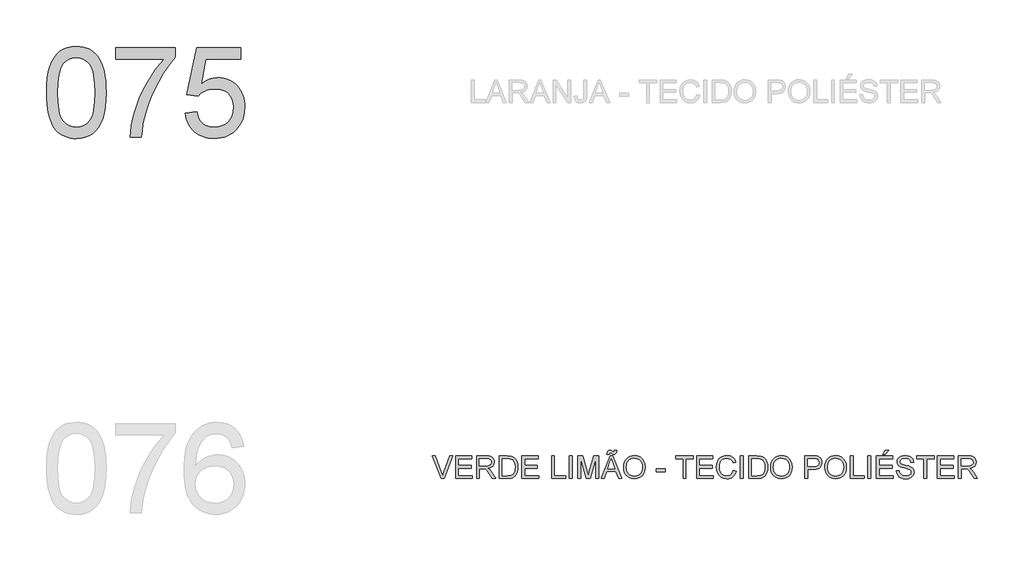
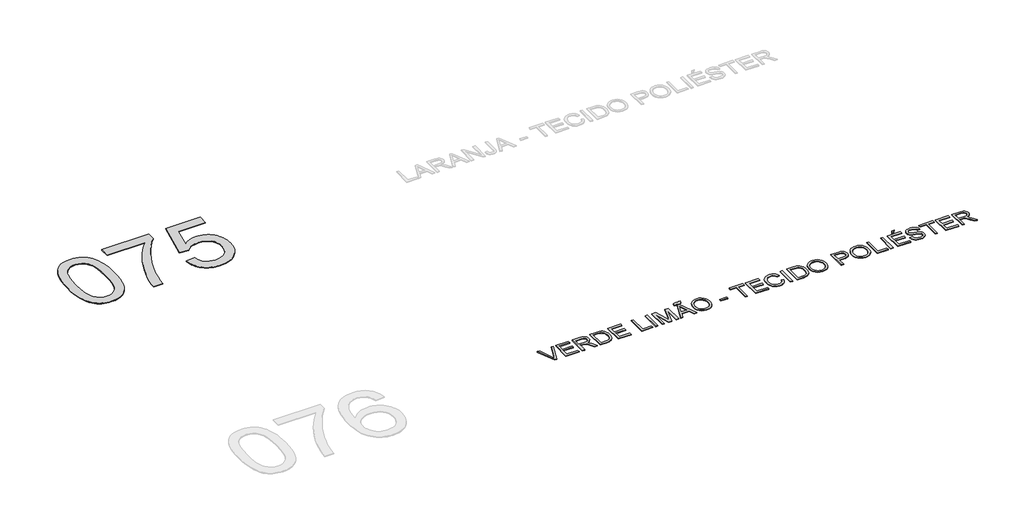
# One storey, part 7 of 35: 2 proxies.
"""IFC4 building model written with IfcOpenShell, lengths in millimetres."""

from ifc_helpers import new_model, si_unit, origin, origin_with_axes, place, context, project, spatial, polyline, outline, extrude, element, save

model = new_model("IFC4")

# Units and contexts
model_context = context("Model", 3, world=origin())
ifc_project = project(units=[si_unit("LENGTHUNIT", "METRE", prefix="MILLI")], contexts=[model_context])

# Site, building, storey
site = spatial("IfcSite", under=ifc_project)
building = spatial("IfcBuilding", under=site)
storey = spatial("IfcBuildingStorey", under=building, Name="Marelli - Linha YOU - Planta Baixa", Elevation=0.0)

# Proxies
placement = place(None, origin())
element("IfcBuildingElementProxy", 1, Name="1200mm Arial", ObjectType="1200mm Arial", at=placement, inside=storey, context=model_context, shape_type="SweptSolid", body=[
    extrude(outline(polyline([(-25181.1313792, -104895.792664), (-25178.3630672, -104794.4319773), (-25170.0581311, -104702.8385576), (-25156.2165711, -104621.0124048), (-25136.838387, -104548.953519), (-25112.0063523, -104486.073289), (-25081.8032405, -104431.7831035), (-25046.2290516, -104386.0829627), (-25005.2837855, -104348.9728664), (-24958.8294866, -104320.2596767), (-24906.728199, -104299.7502555), (-24848.9799228, -104287.4446027), (-24785.584658, -104283.3427185), (-24737.9439396, -104285.7707396), (-24692.7312424, -104293.0548031), (-24649.9465664, -104305.194909), (-24609.5899115, -104322.1910572), (-24572.6361651, -104343.7581391), (-24540.0602144, -104369.6110463), (-24511.8620595, -104399.7497788), (-24488.0417003, -104434.1743365), (-24467.4035204, -104472.7467637), (-24448.7519032, -104515.3291046), (-24417.4083572, -104612.5235278), (-24405.4337983, -104669.6831928), (-24396.8805419, -104735.9479371), (-24391.7485881, -104811.3177609), (-24390.0379368, -104895.792664), (-24392.7786576, -104996.5095573), (-24401.0008202, -105087.6431245), (-24414.7044246, -105169.1933658), (-24433.8894706, -105241.1602811), (-24458.5283672, -105304.0681023), (-24488.5935233, -105358.4410612), (-24524.0849388, -105404.2791578), (-24565.0026137, -105441.5823921), (-24611.5120949, -105470.4887199), (-24663.7789294, -105491.1360968), (-24721.8031171, -105503.524523), (-24785.584658, -105507.6539984), (-24828.2589694, -105505.8605737), (-24868.5788361, -105500.4802995), (-24906.544258, -105491.5131759), (-24942.1552351, -105478.9592028), (-24975.4117675, -105462.8183803), (-25006.3138551, -105443.0907083), (-25034.8614979, -105419.7761868), (-25061.054696, -105392.8748159), (-25089.1976686, -105350.2786794), (-25113.5882449, -105302.0999336), (-25134.2264248, -105248.3385785), (-25151.1122084, -105188.9946142), (-25164.2455956, -105124.0680406), (-25173.6265865, -105053.5588577), (-25179.255181, -104977.4670655), (-25181.1313792, -104895.792664)]), holes=[polyline([(-25030.446914, -104895.4983584), (-25026.03233, -105026.4919399), (-25012.7885782, -105132.5247279), (-25002.8557643, -105176.1808245), (-24990.7156585, -105213.5967226), (-24976.3682607, -105244.7724225), (-24959.8135709, -105269.7079239), (-24922.4367602, -105307.884878), (-24880.9396711, -105335.1541309), (-24835.3223037, -105351.5156826), (-24785.584658, -105356.9695332), (-24735.8470122, -105351.4972885), (-24690.2296448, -105335.0805545), (-24648.7325558, -105307.7193311), (-24611.3557451, -105269.4136183), (-24594.8010553, -105244.418336), (-24580.4536575, -105213.2104465), (-24568.3135516, -105175.7899498), (-24558.3807378, -105132.1568459), (-24545.1369859, -105026.2528166), (-24540.722402, -104895.4983584), (-24544.9898331, -104767.9720648), (-24557.7921266, -104663.8062779), (-24567.3938467, -104620.4835744), (-24579.1292823, -104583.0009976), (-24592.9984335, -104551.3585475), (-24609.0013003, -104525.5562241), (-24645.7527116, -104485.5122689), (-24687.7280473, -104456.9094438), (-24734.9273073, -104439.7477487), (-24787.3504916, -104434.0271837), (-24836.8306199, -104439.067167), (-24881.6754351, -104454.187117), (-24921.8849372, -104479.3870337), (-24957.4591261, -104514.666917), (-24974.5656389, -104543.2145599), (-24989.3912833, -104577.2068562), (-25001.9360594, -104616.6438061), (-25012.199967, -104661.5254095), (-25025.8851772, -104767.6225769), (-25030.446914, -104895.4983584)])]), origin_with_axes(), (0.0, 0.0, 1.0), 10.0),
    extrude(outline(polyline([(-24258.1890297, -104452.8627418), (-24258.1890297, -104302.1782766), (-23467.0955873, -104302.1782766), (-23467.0955873, -104424.0207934), (-23523.6114588, -104490.5246611), (-23579.8514188, -104566.7222194), (-23635.8154673, -104652.6134682), (-23691.5036043, -104748.1984076), (-23743.8991975, -104849.3383651), (-23789.9856144, -104951.8946683), (-23829.7628552, -105055.8673172), (-23863.2309197, -105161.2563118), (-23883.1701238, -105237.7941609), (-23899.1362024, -105317.9004653), (-23911.1291555, -105401.5752251), (-23919.1489829, -105488.8184403), (-24069.8334482, -105488.8184403), (-24065.0969675, -105414.8189769), (-24053.5362758, -105333.4986619), (-24035.1513731, -105244.8574952), (-24009.9422594, -105148.8954767), (-23978.2032402, -105050.1651463), (-23940.2286213, -104953.2190435), (-23896.0184025, -104858.0571684), (-23845.5725839, -104764.679521), (-23791.1628368, -104675.8268221), (-23735.0608326, -104594.2397926), (-23677.2665711, -104519.9184325), (-23617.7800525, -104452.8627418), (-24258.1890297, -104452.8627418)])), origin_with_axes(), (0.0, 0.0, 1.0), 10.0),
    extrude(outline(polyline([(-23335.2466802, -105168.6139517), (-23184.562215, -105149.7783935), (-23173.3050259, -105198.2192552), (-23156.8974889, -105240.2405761), (-23135.339604, -105275.8423562), (-23108.6313712, -105305.0245955), (-23076.8279727, -105327.7505057), (-23039.9845909, -105343.9832988), (-22998.1012257, -105353.7229746), (-22951.1778772, -105356.9695332), (-22893.788286, -105352.4537817), (-22843.1677235, -105338.9065272), (-22799.3161896, -105316.3277698), (-22762.2336845, -105284.7175093), (-22732.7479426, -105245.6392444), (-22711.6866984, -105200.6564734), (-22699.0499518, -105149.7691965), (-22694.837703, -105092.9774135), (-22698.7832374, -105039.3034304), (-22710.6198406, -104991.5891356), (-22730.3475126, -104949.8345291), (-22757.9662534, -104914.039611), (-22793.5680335, -104885.3264213), (-22837.2448233, -104864.817), (-22888.996623, -104852.5113473), (-22948.8234325, -104848.4094631), (-22987.1107511, -104850.0465379), (-23021.9215849, -104854.9577626), (-23053.2559339, -104863.143137), (-23081.1137979, -104874.6026611), (-23128.3866343, -104904.6954083), (-23165.7266568, -104942.5872538), (-23316.4111221, -104923.7516957), (-23184.562215, -104302.1782766), (-22600.6599122, -104302.1782766), (-22600.6599122, -104452.8627418), (-23062.7196982, -104452.8627418), (-23127.1726237, -104784.8394543), (-23073.9952813, -104746.7268796), (-23019.5303519, -104719.503612), (-22963.7778356, -104703.1696514), (-22906.7377322, -104697.7249978), (-22869.2988414, -104699.4126565), (-22833.3544712, -104704.4756324), (-22798.9046216, -104712.9139257), (-22765.9492927, -104724.7275363), (-22734.4884843, -104739.9164642), (-22704.5221965, -104758.4807093), (-22676.0504294, -104780.4202718), (-22649.0731828, -104805.7351516), (-22624.4825707, -104833.7033803), (-22603.1707069, -104863.6029895), (-22585.1375913, -104895.4339791), (-22570.383224, -104929.1963492), (-22558.907605, -104964.8900998), (-22550.7107343, -105002.5152308), (-22545.7926119, -105042.0717424), (-22544.1532378, -105083.5596344), (-22550.0577438, -105161.6241938), (-22557.4383763, -105198.6147284), (-22567.7712619, -105234.2440996), (-22581.0564004, -105268.5123075), (-22597.293792, -105301.4193519), (-22616.4834366, -105332.965233), (-22638.6253341, -105363.1499507), (-22668.6261108, -105397.0180869), (-22701.2388497, -105426.3704716), (-22736.4635508, -105451.2071048), (-22774.300214, -105471.5279865), (-22814.7488393, -105487.3331167), (-22857.8094269, -105498.6224954), (-22903.4819766, -105505.3961227), (-22951.7664884, -105507.6539984), (-23029.5275452, -105501.8506599), (-23065.5868785, -105494.5964869), (-23099.7654151, -105484.4406445), (-23132.063155, -105471.383133), (-23162.4800982, -105455.4239522), (-23191.0162447, -105436.5631021), (-23217.6715945, -105414.8005828), (-23242.0092878, -105390.6422321), (-23263.5924646, -105364.5938875), (-23282.421125, -105336.6555493), (-23298.4952689, -105306.8272173), (-23311.8148964, -105275.1088915), (-23322.3800074, -105241.500572), (-23335.2466802, -105168.6139517)])), origin_with_axes(), (0.0, 0.0, 1.0), 10.0),
])
element("IfcBuildingElementProxy", 2, Name="300mm Arial", ObjectType="300mm Arial", at=placement, inside=storey, context=model_context, shape_type="SweptSolid", body=[
    extrude(outline(polyline([(-19932.4220369, -110030.5663201), (-20052.3515673, -109729.1973896), (-20012.0317006, -109729.1973896), (-19931.7598493, -109946.3213432), (-19915.4994651, -109995.2496485), (-19899.4598101, -109946.3213432), (-19818.9672296, -109729.1973896), (-19778.6473629, -109729.1973896), (-19893.5001218, -110030.5663201), (-19932.4220369, -110030.5663201)])), origin_with_axes(), (0.0, 0.0, 1.0), 10.0),
    extrude(outline(polyline([(-19743.624997, -110030.5663201), (-19743.624997, -109729.1973896), (-19527.0160782, -109729.1973896), (-19527.0160782, -109766.8685059), (-19705.9538807, -109766.8685059), (-19705.9538807, -109856.3374072), (-19536.4338573, -109856.3374072), (-19536.4338573, -109894.0085235), (-19705.9538807, -109894.0085235), (-19705.9538807, -109992.8952038), (-19522.3071887, -109992.8952038), (-19522.3071887, -110030.5663201), (-19743.624997, -110030.5663201)])), origin_with_axes(), (0.0, 0.0, 1.0), 10.0),
    extrude(outline(polyline([(-19465.8005142, -110030.5663201), (-19465.8005142, -109729.1973896), (-19335.9381699, -109729.1973896), (-19301.0353656, -109731.2299376), (-19275.6423109, -109737.3275817), (-19257.0826642, -109748.5847708), (-19242.6800841, -109766.0959537), (-19233.437049, -109787.8101885), (-19230.3560373, -109811.6765329), (-19235.4604, -109841.3646099), (-19250.773488, -109865.9759154), (-19262.3732672, -109876.0052983), (-19276.7551539, -109884.0205273), (-19313.8652502, -109894.0085235), (-19292.4545181, -109910.1217548), (-19261.9203125, -109948.8965171), (-19211.6676319, -110030.5663201), (-19255.4455894, -110030.5663201), (-19294.66181, -109968.0999573), (-19322.9887237, -109926.750021), (-19342.8911396, -109907.2154871), (-19360.8069928, -109900.0417882), (-19382.6591833, -109898.717413), (-19428.1293979, -109898.717413), (-19428.1293979, -110030.5663201), (-19465.8005142, -110030.5663201)]), holes=[polyline([(-19428.1293979, -109861.0462967), (-19343.8108446, -109861.0462967), (-19319.5950123, -109859.7127245), (-19300.8054394, -109855.7120078), (-19286.6603767, -109848.7774322), (-19276.3780749, -109838.6422832), (-19270.1148839, -109826.3826157), (-19268.0271536, -109813.0744845), (-19272.0094762, -109794.6987789), (-19283.956444, -109779.8915286), (-19304.5118505, -109770.1242616), (-19334.3194891, -109766.8685059), (-19428.1293979, -109766.8685059), (-19428.1293979, -109861.0462967)])]), origin_with_axes(), (0.0, 0.0, 1.0), 10.0),
    extrude(outline(polyline([(-19164.4315838, -110030.5663201), (-19164.4315838, -109729.1973896), (-19060.4681319, -109729.1973896), (-19006.6837842, -109733.5383972), (-18982.6610899, -109741.9077126), (-18962.390792, -109755.0962821), (-18941.550277, -109778.0521186), (-18926.7062385, -109806.5997614), (-18917.8218883, -109840.1873876), (-18914.8604382, -109878.2631741), (-18916.8653951, -109910.6091985), (-18922.8802657, -109939.0740679), (-18932.0405274, -109963.3082943), (-18943.4816575, -109982.9623899), (-18956.6518329, -109998.477813), (-18970.9992307, -110010.2960221), (-18987.471147, -110019.0608107), (-19007.014878, -110025.4159721), (-19055.4649368, -110030.5663201), (-19164.4315838, -110030.5663201)]), holes=[polyline([(-19126.7604675, -109992.8952038), (-19060.1002499, -109992.8952038), (-19032.5274944, -109991.5340404), (-19011.613403, -109987.4505502), (-18995.8312654, -109980.8838566), (-18983.6543713, -109972.0730828), (-18970.5669693, -109955.7667134), (-18960.735323, -109934.6594839), (-18954.5824967, -109908.6594239), (-18952.5315545, -109877.6745629), (-18956.5506653, -109836.6189322), (-18968.6079977, -109806.3054558), (-18986.4226833, -109785.4833349), (-19007.7138538, -109772.9017706), (-19029.3821033, -109768.3768221), (-19061.1303195, -109766.8685059), (-19126.7604675, -109766.8685059), (-19126.7604675, -109992.8952038)])]), origin_with_axes(), (0.0, 0.0, 1.0), 10.0),
    extrude(outline(polyline([(-18863.0626533, -110030.5663201), (-18863.0626533, -109729.1973896), (-18646.4537345, -109729.1973896), (-18646.4537345, -109766.8685059), (-18825.391537, -109766.8685059), (-18825.391537, -109856.3374072), (-18655.8715136, -109856.3374072), (-18655.8715136, -109894.0085235), (-18825.391537, -109894.0085235), (-18825.391537, -109992.8952038), (-18641.744845, -109992.8952038), (-18641.744845, -110030.5663201), (-18863.0626533, -110030.5663201)])), origin_with_axes(), (0.0, 0.0, 1.0), 10.0),
    extrude(outline(polyline([(-18467.5159321, -110030.5663201), (-18467.5159321, -109729.1973896), (-18429.8448158, -109729.1973896), (-18429.8448158, -109992.8952038), (-18279.1603506, -109992.8952038), (-18279.1603506, -110030.5663201), (-18467.5159321, -110030.5663201)])), origin_with_axes(), (0.0, 0.0, 1.0), 10.0),
    extrude(outline(polyline([(-18232.0714552, -110030.5663201), (-18232.0714552, -109729.1973896), (-18194.4003389, -109729.1973896), (-18194.4003389, -110030.5663201), (-18232.0714552, -110030.5663201)])), origin_with_axes(), (0.0, 0.0, 1.0), 10.0),
    extrude(outline(polyline([(-18119.0581063, -110030.5663201), (-18119.0581063, -109729.1973896), (-18054.2372987, -109729.1973896), (-17992.5802763, -109941.6124536), (-17980.1458649, -109985.9790223), (-17966.6813839, -109937.9336337), (-17906.0544311, -109729.1973896), (-17841.2336235, -109729.1973896), (-17841.2336235, -110030.5663201), (-17878.9047398, -110030.5663201), (-17878.9047398, -109766.8685059), (-17954.6148544, -110030.5663201), (-18005.6768753, -110030.5663201), (-18081.38699, -109766.8685059), (-18081.38699, -110030.5663201), (-18119.0581063, -110030.5663201)])), origin_with_axes(), (0.0, 0.0, 1.0), 10.0),
    extrude(outline(polyline([(-17732.9291641, -109710.3618315), (-17730.0780787, -109687.2036599), (-17721.2305167, -109669.2326244), (-17707.8947944, -109657.6995239), (-17691.2849223, -109653.855157), (-17677.3789829, -109656.8901835), (-17661.1185987, -109665.9952628), (-17645.8882841, -109672.6907152), (-17637.9052448, -109668.9015306), (-17634.0424838, -109653.855157), (-17601.0802571, -109653.855157), (-17604.3636039, -109678.5768271), (-17613.0364219, -109696.2351629), (-17625.9398829, -109706.8301643), (-17641.9151585, -109710.3618315), (-17655.9130684, -109707.4923519), (-17671.7136001, -109698.8839132), (-17687.6061023, -109691.5262733), (-17696.582423, -109696.3087393), (-17699.9669374, -109710.3618315), (-17732.9291641, -109710.3618315)])), origin_with_axes(), (0.0, 0.0, 1.0), 10.0),
    extrude(outline(polyline([(-17810.4051123, -110030.5663201), (-17690.1076999, -109729.1973896), (-17658.0283899, -109729.1973896), (-17537.7309775, -110030.5663201), (-17577.5358094, -110030.5663201), (-17612.0431405, -109936.3885293), (-17736.1665257, -109936.3885293), (-17770.6002804, -110030.5663201), (-17810.4051123, -110030.5663201)]), holes=[polyline([(-17722.3341627, -109898.717413), (-17625.8019271, -109898.717413), (-17652.9516184, -109824.6259792), (-17674.0680449, -109766.8685059), (-17692.8300267, -109818.1512561), (-17722.3341627, -109898.717413)])]), origin_with_axes(), (0.0, 0.0, 1.0), 10.0),
    extrude(outline(polyline([(-17511.6113558, -109883.8549804), (-17509.1005612, -109848.5061192), (-17501.5681774, -109817.213157), (-17489.0142043, -109789.9760937), (-17471.438642, -109766.7949295), (-17449.8945526, -109748.2858666), (-17425.4349985, -109735.0651074), (-17398.0599795, -109727.1326519), (-17367.7694957, -109724.4885001), (-17328.2405753, -109729.454907), (-17292.7951451, -109744.3541278), (-17263.3645855, -109768.1376988), (-17241.880277, -109799.7571563), (-17228.7468897, -109837.68579), (-17224.369094, -109880.3968896), (-17228.976816, -109923.6782064), (-17242.799982, -109962.140269), (-17265.0752368, -109993.8149088), (-17295.0392253, -110016.733957), (-17330.1811529, -110030.6398965), (-17367.9902249, -110035.2752096), (-17408.1261506, -110030.1524528), (-17443.7739159, -110014.7841825), (-17473.1308991, -109990.5591531), (-17494.3944785, -109958.8661192), (-17507.3071365, -109922.3998164), (-17511.6113558, -109883.8549804)]), holes=[polyline([(-17473.9402395, -109884.2228624), (-17472.0571436, -109909.1974513), (-17466.4078557, -109931.3669401), (-17456.9923759, -109950.7313286), (-17443.8107041, -109967.2906169), (-17427.787144, -109980.5527628), (-17409.8459989, -109990.0257242), (-17389.987269, -109995.709501), (-17368.2109541, -109997.6040933), (-17346.0621587, -109995.6911069), (-17325.968904, -109989.9521478), (-17307.9311899, -109980.3872159), (-17291.9490165, -109966.9963113), (-17278.8639138, -109950.0875351), (-17269.5174119, -109929.9689885), (-17263.9095107, -109906.6406715), (-17262.0402103, -109880.102584), (-17265.2407837, -109846.7540812), (-17274.8425037, -109817.9305269), (-17290.5970502, -109794.358488), (-17312.2561026, -109776.7645316), (-17338.3849213, -109765.8108452), (-17367.5487665, -109762.1596164), (-17388.568624, -109763.9185522), (-17408.0709683, -109769.1953595), (-17426.0557993, -109777.9900385), (-17442.5231171, -109790.302589), (-17456.2681082, -109806.7262208), (-17466.0859589, -109827.8541437), (-17471.9766694, -109853.6863575), (-17473.9402395, -109884.2228624)])]), origin_with_axes(), (0.0, 0.0, 1.0), 10.0),
    extrude(outline(polyline([(-17078.3935183, -109941.0974188), (-17078.3935183, -109903.4263025), (-16960.6712798, -109903.4263025), (-16960.6712798, -109941.0974188), (-17078.3935183, -109941.0974188)])), origin_with_axes(), (0.0, 0.0, 1.0), 10.0),
    extrude(outline(polyline([(-16720.5179134, -110030.5663201), (-16720.5179134, -109766.8685059), (-16819.4045937, -109766.8685059), (-16819.4045937, -109729.1973896), (-16583.9601168, -109729.1973896), (-16583.9601168, -109766.8685059), (-16682.8467971, -109766.8685059), (-16682.8467971, -110030.5663201), (-16720.5179134, -110030.5663201)])), origin_with_axes(), (0.0, 0.0, 1.0), 10.0),
    extrude(outline(polyline([(-16541.5801109, -110030.5663201), (-16541.5801109, -109729.1973896), (-16324.9711922, -109729.1973896), (-16324.9711922, -109766.8685059), (-16503.9089946, -109766.8685059), (-16503.9089946, -109856.3374072), (-16334.3889713, -109856.3374072), (-16334.3889713, -109894.0085235), (-16503.9089946, -109894.0085235), (-16503.9089946, -109992.8952038), (-16320.2623026, -109992.8952038), (-16320.2623026, -110030.5663201), (-16541.5801109, -110030.5663201)])), origin_with_axes(), (0.0, 0.0, 1.0), 10.0),
    extrude(outline(polyline([(-16051.855599, -109923.4390831), (-16014.1844827, -109933.1511677), (-16021.6386916, -109956.5783531), (-16031.5669069, -109977.0486868), (-16043.9691287, -109994.5621691), (-16058.8453569, -110009.1187997), (-16075.8598992, -110020.5622291), (-16094.6770632, -110028.7361071), (-16115.296849, -110033.640434), (-16137.7192566, -110035.2752096), (-16181.4144406, -110030.3271968), (-16216.1149098, -110015.4831583), (-16242.7127781, -109991.2581289), (-16262.1001592, -109958.1671434), (-16273.9367624, -109919.2636224), (-16277.8822968, -109877.6009865), (-16273.4217276, -109833.6574822), (-16260.04002, -109795.7104543), (-16238.4361499, -109764.9647166), (-16209.3090929, -109742.6250824), (-16174.7649736, -109729.0226457), (-16136.9099163, -109724.4885001), (-16095.6059652, -109730.3562179), (-16077.637229, -109737.6908652), (-16061.457319, -109747.9593714), (-16047.3329497, -109760.8904235), (-16035.5308354, -109776.2127086), (-16018.8933722, -109814.0309777), (-16056.5644885, -109823.0072984), (-16069.6242993, -109795.5357104), (-16087.4665761, -109776.6909552), (-16110.312048, -109765.7924511), (-16138.3814442, -109762.1596164), (-16170.7366657, -109766.1879242), (-16197.3161399, -109778.2728478), (-16217.4852702, -109797.1451941), (-16230.6094604, -109821.5357704), (-16237.8107505, -109849.1085259), (-16240.2111805, -109877.5274101), (-16237.3692921, -109912.3290468), (-16228.8436268, -109942.421794), (-16214.312288, -109966.6560205), (-16193.4533789, -109983.8820949), (-16168.4466003, -109994.1735937), (-16141.471653, -109997.6040933), (-16110.0269395, -109992.931992), (-16083.8245443, -109978.9156879), (-16064.0416901, -109955.702334), (-16051.855599, -109923.4390831)])), origin_with_axes(), (0.0, 0.0, 1.0), 10.0),
    extrude(outline(polyline([(-15957.6778082, -110030.5663201), (-15957.6778082, -109729.1973896), (-15920.0066919, -109729.1973896), (-15920.0066919, -110030.5663201), (-15957.6778082, -110030.5663201)])), origin_with_axes(), (0.0, 0.0, 1.0), 10.0),
    extrude(outline(polyline([(-15844.6644593, -110030.5663201), (-15844.6644593, -109729.1973896), (-15740.7010074, -109729.1973896), (-15686.9166597, -109733.5383972), (-15662.8939655, -109741.9077126), (-15642.6236675, -109755.0962821), (-15621.7831525, -109778.0521186), (-15606.939114, -109806.5997614), (-15598.0547638, -109840.1873876), (-15595.0933138, -109878.2631741), (-15597.0982706, -109910.6091985), (-15603.1131412, -109939.0740679), (-15612.2734029, -109963.3082943), (-15623.714533, -109982.9623899), (-15636.8847084, -109998.477813), (-15651.2321062, -110010.2960221), (-15667.7040226, -110019.0608107), (-15687.2477535, -110025.4159721), (-15735.6978123, -110030.5663201), (-15844.6644593, -110030.5663201)]), holes=[polyline([(-15806.993343, -109992.8952038), (-15740.3331254, -109992.8952038), (-15712.7603699, -109991.5340404), (-15691.8462785, -109987.4505502), (-15676.0641409, -109980.8838566), (-15663.8872469, -109972.0730828), (-15650.7998449, -109955.7667134), (-15640.9681986, -109934.6594839), (-15634.8153722, -109908.6594239), (-15632.7644301, -109877.6745629), (-15636.7835409, -109836.6189322), (-15648.8408732, -109806.3054558), (-15666.6555589, -109785.4833349), (-15687.9467293, -109772.9017706), (-15709.6149789, -109768.3768221), (-15741.363195, -109766.8685059), (-15806.993343, -109766.8685059), (-15806.993343, -109992.8952038)])]), origin_with_axes(), (0.0, 0.0, 1.0), 10.0),
    extrude(outline(polyline([(-15557.4221974, -109883.8549804), (-15554.9114028, -109848.5061192), (-15547.379019, -109817.213157), (-15534.8250459, -109789.9760937), (-15517.2494836, -109766.7949295), (-15495.7053942, -109748.2858666), (-15471.2458401, -109735.0651074), (-15443.8708211, -109727.1326519), (-15413.5803373, -109724.4885001), (-15374.051417, -109729.454907), (-15338.6059867, -109744.3541278), (-15309.1754271, -109768.1376988), (-15287.6911186, -109799.7571563), (-15274.5577314, -109837.68579), (-15270.1799356, -109880.3968896), (-15274.7876576, -109923.6782064), (-15288.6108236, -109962.140269), (-15310.8860784, -109993.8149088), (-15340.8500669, -110016.733957), (-15375.9919945, -110030.6398965), (-15413.8010665, -110035.2752096), (-15453.9369922, -110030.1524528), (-15489.5847575, -110014.7841825), (-15518.9417408, -109990.5591531), (-15540.2053201, -109958.8661192), (-15553.1179781, -109922.3998164), (-15557.4221974, -109883.8549804)]), holes=[polyline([(-15519.7510811, -109884.2228624), (-15517.8679852, -109909.1974513), (-15512.2186973, -109931.3669401), (-15502.8032175, -109950.7313286), (-15489.6215457, -109967.2906169), (-15473.5979856, -109980.5527628), (-15455.6568405, -109990.0257242), (-15435.7981106, -109995.709501), (-15414.0217957, -109997.6040933), (-15391.8730004, -109995.6911069), (-15371.7797456, -109989.9521478), (-15353.7420316, -109980.3872159), (-15337.7598581, -109966.9963113), (-15324.6747554, -109950.0875351), (-15315.3282535, -109929.9689885), (-15309.7203523, -109906.6406715), (-15307.8510519, -109880.102584), (-15311.0516253, -109846.7540812), (-15320.6533454, -109817.9305269), (-15336.4078918, -109794.358488), (-15358.0669443, -109776.7645316), (-15384.195763, -109765.8108452), (-15413.3596081, -109762.1596164), (-15434.3794656, -109763.9185522), (-15453.8818099, -109769.1953595), (-15471.8666409, -109777.9900385), (-15488.3339588, -109790.302589), (-15502.0789498, -109806.7262208), (-15511.8968005, -109827.8541437), (-15517.787511, -109853.6863575), (-15519.7510811, -109884.2228624)])]), origin_with_axes(), (0.0, 0.0, 1.0), 10.0),
    extrude(outline(polyline([(-15100.6599122, -110030.5663201), (-15100.6599122, -109729.1973896), (-14988.9709385, -109729.1973896), (-14943.9421823, -109732.0668692), (-14923.8650224, -109737.4287493), (-14907.3379238, -109746.1567496), (-14894.0297926, -109758.6463433), (-14883.6095351, -109775.2930036), (-14876.8772946, -109794.9287051), (-14874.6332144, -109816.3854225), (-14876.1484284, -109834.8852883), (-14880.6940703, -109851.9044291), (-14888.2701401, -109867.4428449), (-14898.8766379, -109881.5005356), (-14913.4378671, -109893.1531978), (-14932.8781313, -109901.476528), (-14957.1974304, -109906.470526), (-14986.3957645, -109908.1351921), (-15062.9887959, -109908.1351921), (-15062.9887959, -110030.5663201), (-15100.6599122, -110030.5663201)]), holes=[polyline([(-15062.9887959, -109870.4640758), (-14984.1884726, -109870.4640758), (-14950.7847874, -109867.005985), (-14928.7118677, -109856.6317127), (-14916.406215, -109839.9850525), (-14912.3043307, -109817.7097977), (-14914.7231548, -109800.7872259), (-14921.9796272, -109786.5134045), (-14933.1724369, -109775.7712502), (-14947.400273, -109769.4436799), (-14985.0713894, -109766.8685059), (-15062.9887959, -109766.8685059), (-15062.9887959, -109870.4640758)])]), origin_with_axes(), (0.0, 0.0, 1.0), 10.0),
    extrude(outline(polyline([(-14836.9620981, -109883.8549804), (-14834.4513035, -109848.5061192), (-14826.9189196, -109817.213157), (-14814.3649465, -109789.9760937), (-14796.7893842, -109766.7949295), (-14775.2452949, -109748.2858666), (-14750.7857407, -109735.0651074), (-14723.4107218, -109727.1326519), (-14693.120238, -109724.4885001), (-14653.5913176, -109729.454907), (-14618.1458874, -109744.3541278), (-14588.7153277, -109768.1376988), (-14567.2310192, -109799.7571563), (-14554.097632, -109837.68579), (-14549.7198363, -109880.3968896), (-14554.3275582, -109923.6782064), (-14568.1507242, -109962.140269), (-14590.425979, -109993.8149088), (-14620.3899675, -110016.733957), (-14655.5318951, -110030.6398965), (-14693.3409672, -110035.2752096), (-14733.4768929, -110030.1524528), (-14769.1246582, -110014.7841825), (-14798.4816414, -109990.5591531), (-14819.7452207, -109958.8661192), (-14832.6578787, -109922.3998164), (-14836.9620981, -109883.8549804)]), holes=[polyline([(-14799.2909818, -109884.2228624), (-14797.4078858, -109909.1974513), (-14791.7585979, -109931.3669401), (-14782.3431181, -109950.7313286), (-14769.1614464, -109967.2906169), (-14753.1378862, -109980.5527628), (-14735.1967412, -109990.0257242), (-14715.3380112, -109995.709501), (-14693.5616964, -109997.6040933), (-14671.412901, -109995.6911069), (-14651.3196463, -109989.9521478), (-14633.2819322, -109980.3872159), (-14617.2997588, -109966.9963113), (-14604.2146561, -109950.0875351), (-14594.8681541, -109929.9689885), (-14589.260253, -109906.6406715), (-14587.3909526, -109880.102584), (-14590.5915259, -109846.7540812), (-14600.193246, -109817.9305269), (-14615.9477924, -109794.358488), (-14637.6068449, -109776.7645316), (-14663.7356636, -109765.8108452), (-14692.8995088, -109762.1596164), (-14713.9193663, -109763.9185522), (-14733.4217106, -109769.1953595), (-14751.4065416, -109777.9900385), (-14767.8738594, -109790.302589), (-14781.6188504, -109806.7262208), (-14791.4367012, -109827.8541437), (-14797.3274116, -109853.6863575), (-14799.2909818, -109884.2228624)])]), origin_with_axes(), (0.0, 0.0, 1.0), 10.0),
    extrude(outline(polyline([(-14497.9220513, -110030.5663201), (-14497.9220513, -109729.1973896), (-14460.250935, -109729.1973896), (-14460.250935, -109992.8952038), (-14309.5664698, -109992.8952038), (-14309.5664698, -110030.5663201), (-14497.9220513, -110030.5663201)])), origin_with_axes(), (0.0, 0.0, 1.0), 10.0),
    extrude(outline(polyline([(-14262.4775744, -110030.5663201), (-14262.4775744, -109729.1973896), (-14224.8064581, -109729.1973896), (-14224.8064581, -110030.5663201), (-14262.4775744, -110030.5663201)])), origin_with_axes(), (0.0, 0.0, 1.0), 10.0),
    extrude(outline(polyline([(-14149.4642255, -110030.5663201), (-14149.4642255, -109729.1973896), (-13932.8553067, -109729.1973896), (-13932.8553067, -109766.8685059), (-14111.7931092, -109766.8685059), (-14111.7931092, -109856.3374072), (-13942.2730858, -109856.3374072), (-13942.2730858, -109894.0085235), (-14111.7931092, -109894.0085235), (-14111.7931092, -109992.8952038), (-13928.1464172, -109992.8952038), (-13928.1464172, -110030.5663201), (-14149.4642255, -110030.5663201)])), origin_with_axes(), (0.0, 0.0, 1.0), 10.0),
    extrude(outline(polyline([(-14064.7042138, -109710.3618315), (-14036.4508766, -109653.855157), (-13989.3619812, -109653.855157), (-14036.4508766, -109710.3618315), (-14064.7042138, -109710.3618315)])), origin_with_axes(), (0.0, 0.0, 1.0), 10.0),
    extrude(outline(polyline([(-13885.7664114, -109926.9707502), (-13848.0952951, -109926.9707502), (-13843.7726816, -109947.8756446), (-13835.9551892, -109964.6786547), (-13823.7599011, -109978.0143771), (-13806.3039004, -109988.517408), (-13784.9667447, -109995.332422), (-13761.1279914, -109997.6040933), (-13740.1403236, -109995.884245), (-13721.7646179, -109990.7247), (-13706.8745942, -109982.5577197), (-13696.343972, -109971.8155654), (-13690.0807811, -109959.4823216), (-13687.9930508, -109946.5420724), (-13689.5565492, -109933.932917), (-13694.2470447, -109923.0344129), (-13703.7751884, -109913.7361955), (-13719.8516315, -109905.9279001), (-13774.702837, -109891.5437141), (-13810.7092873, -109882.0247675), (-13833.7478972, -109872.9656733), (-13852.500682, -109860.2921386), (-13865.790419, -109844.9330653), (-13873.709079, -109827.2195472), (-13876.3486323, -109807.4826782), (-13873.0836796, -109785.4189555), (-13863.2888215, -109764.845155), (-13847.2215753, -109747.4075484), (-13825.1394586, -109734.7524077), (-13798.6335608, -109727.054477), (-13769.2949717, -109724.4885001), (-13737.5099673, -109727.1740386), (-13709.6980885, -109735.2306543), (-13686.8526166, -109748.4928003), (-13669.966833, -109766.7949295), (-13659.279861, -109788.9966079), (-13655.030824, -109813.9574013), (-13692.7019403, -109813.9574013), (-13699.6181218, -109791.4798114), (-13714.039096, -109775.2562154), (-13736.5718682, -109765.4337661), (-13767.8234437, -109762.1596164), (-13799.8107832, -109765.3969779), (-13821.7549442, -109775.1090626), (-13834.446873, -109789.4012781), (-13838.677516, -109806.3790322), (-13835.6792777, -109820.8551887), (-13826.6845629, -109832.4986539), (-13805.4209836, -109842.9097143), (-13765.1746933, -109853.541504), (-13723.6408161, -109863.6398648), (-13698.5144758, -109872.4506385), (-13677.0393644, -109886.1174547), (-13662.0573701, -109902.9848441), (-13653.2557934, -109922.868866), (-13650.3219345, -109945.5855792), (-13653.6972518, -109968.8081301), (-13663.8232037, -109990.6511236), (-13680.285923, -110009.4498935), (-13702.6715424, -110023.539774), (-13729.5913074, -110032.3413507), (-13759.6564634, -110035.2752096), (-13796.5642246, -110032.1114244), (-13826.9420803, -110022.620069), (-13851.1395186, -110006.764355), (-13869.5060272, -109984.5074943), (-13881.2966451, -109957.3945912), (-13885.7664114, -109926.9707502)])), origin_with_axes(), (0.0, 0.0, 1.0), 10.0),
    extrude(outline(polyline([(-13518.4730274, -110030.5663201), (-13518.4730274, -109766.8685059), (-13617.3597077, -109766.8685059), (-13617.3597077, -109729.1973896), (-13381.9152308, -109729.1973896), (-13381.9152308, -109766.8685059), (-13480.8019111, -109766.8685059), (-13480.8019111, -110030.5663201), (-13518.4730274, -110030.5663201)])), origin_with_axes(), (0.0, 0.0, 1.0), 10.0),
    extrude(outline(polyline([(-13339.5352249, -110030.5663201), (-13339.5352249, -109729.1973896), (-13122.9263062, -109729.1973896), (-13122.9263062, -109766.8685059), (-13301.8641086, -109766.8685059), (-13301.8641086, -109856.3374072), (-13132.3440852, -109856.3374072), (-13132.3440852, -109894.0085235), (-13301.8641086, -109894.0085235), (-13301.8641086, -109992.8952038), (-13118.2174166, -109992.8952038), (-13118.2174166, -110030.5663201), (-13339.5352249, -110030.5663201)])), origin_with_axes(), (0.0, 0.0, 1.0), 10.0),
    extrude(outline(polyline([(-13061.7107422, -110030.5663201), (-13061.7107422, -109729.1973896), (-12931.8483979, -109729.1973896), (-12896.9455936, -109731.2299376), (-12871.5525389, -109737.3275817), (-12852.9928922, -109748.5847708), (-12838.5903121, -109766.0959537), (-12829.347277, -109787.8101885), (-12826.2662653, -109811.6765329), (-12831.3706279, -109841.3646099), (-12846.683716, -109865.9759154), (-12858.2834951, -109876.0052983), (-12872.6653819, -109884.0205273), (-12909.7754782, -109894.0085235), (-12888.364746, -109910.1217548), (-12857.8305404, -109948.8965171), (-12807.5778599, -110030.5663201), (-12851.3558173, -110030.5663201), (-12890.572038, -109968.0999573), (-12918.8989516, -109926.750021), (-12938.8013676, -109907.2154871), (-12956.7172207, -109900.0417882), (-12978.5694113, -109898.717413), (-13024.0396259, -109898.717413), (-13024.0396259, -110030.5663201), (-13061.7107422, -110030.5663201)]), holes=[polyline([(-13024.0396259, -109861.0462967), (-12939.7210726, -109861.0462967), (-12915.5052402, -109859.7127245), (-12896.7156673, -109855.7120078), (-12882.5706046, -109848.7774322), (-12872.2883029, -109838.6422832), (-12866.0251119, -109826.3826157), (-12863.9373816, -109813.0744845), (-12867.9197042, -109794.6987789), (-12879.866672, -109779.8915286), (-12900.4220784, -109770.1242616), (-12930.2297171, -109766.8685059), (-13024.0396259, -109766.8685059), (-13024.0396259, -109861.0462967)])]), origin_with_axes(), (0.0, 0.0, 1.0), 10.0),
])

save(model, "model.ifc")
